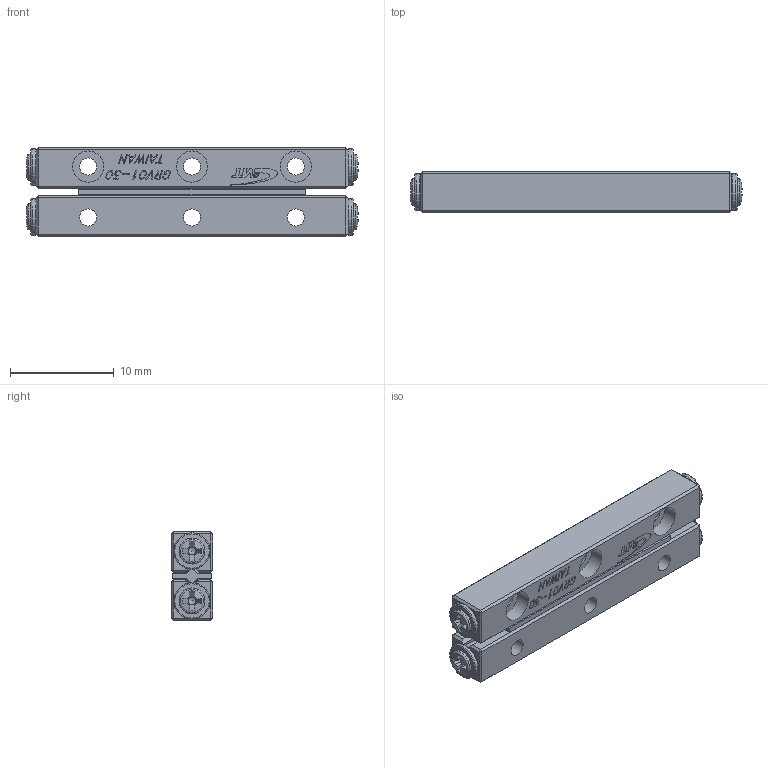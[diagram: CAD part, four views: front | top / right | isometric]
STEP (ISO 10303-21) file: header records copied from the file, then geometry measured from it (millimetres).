
FILE_DESCRIPTION (( 'STEP AP203' ), '1' );
FILE_NAME ('GRV01-30.STEP', '2023-07-31T06:19:37', ( '' ), ( '' ), 'SwSTEP 2.0', 'SolidWorks 2019', '' );
FILE_SCHEMA (( 'CONFIG_CONTROL_DESIGN' ));
Length unit declared in the file: millimetre
Products named in the file (3): GRV01-30; GRV01-30-模糊化軌道; GRVP01-30-模糊化保持器組
Assembly tree (3 placements, depth 2):
  GRV01-30
    GRV01-30-模糊化軌道  x2
    GRVP01-30-模糊化保持器組
Bounding box: 31.96 x 4 x 8.5 mm (x, y, z)
Volume: 861.1 mm3; surface area: 1516.7 mm2
Topology: 3 solids, 7 shells, 1192 faces, 3158 edges, 2060 vertices
Faces by surface type: plane 828, bspline 240, cylinder 54, cone 40, torus 26, sphere 4
Full cylindrical faces by diameter (mm): 1.32 x4, 1.65 x6, 2.5 x4, 3 x6, 3.5 x4
Entity records: 22065 total; most frequent: CARTESIAN_POINT 6629, ORIENTED_EDGE 3376, DIRECTION 2586, EDGE_CURVE 1688, LINE 1216, VECTOR 1216, VERTEX_POINT 1114, EDGE_LOOP 738
